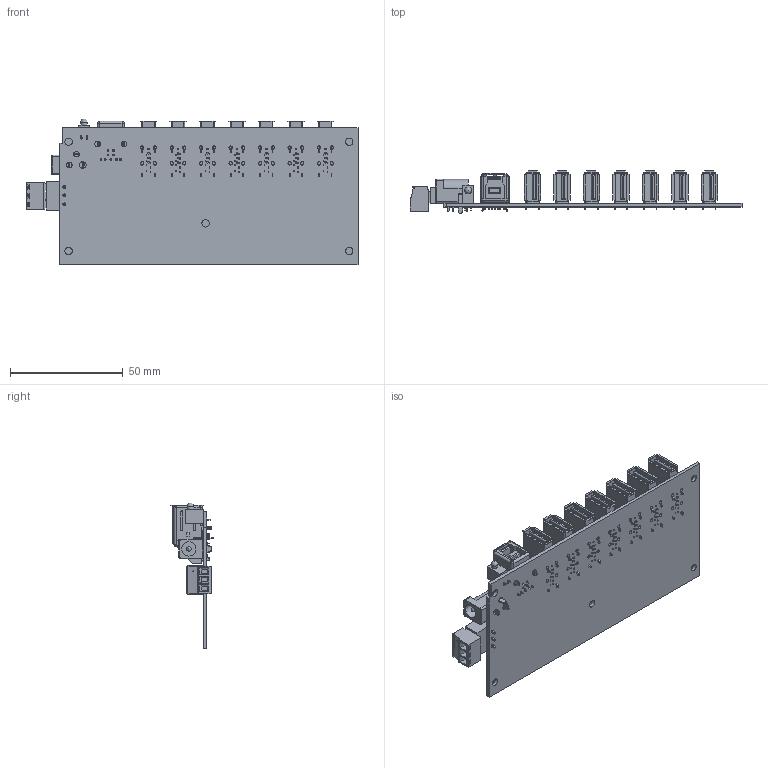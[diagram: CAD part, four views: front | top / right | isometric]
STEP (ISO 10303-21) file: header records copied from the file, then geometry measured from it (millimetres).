
FILE_DESCRIPTION(/* description */ (''),/* implementation_level */ '2;1');
FILE_NAME(/* name */ 'C:/Users/Leo Pinto/Documents/Fusion 360/AA PCBAs/GM-HU37-PCBA/GM-HU37-PCBA Model3D LPv1.step',/* time_stamp */ '2022-07-12T14:40:38-04:00',/* author */ (''),/* organization */ (''),/* preprocessor_version */ 'ST-DEVELOPER v19',/* originating_system */ 'Autodesk Translation Framework v11.7.0.108',/* authorisation */ '');
FILE_SCHEMA (('AUTOMOTIVE_DESIGN { 1 0 10303 214 3 1 1 }'));
Products named in the file (16): GM-HU37-PCBA; PCBA_ASM_12; ACCURATE_DS-210_1; LED_2; OQ3_81_1; PCB_7; USB3B_5; USB_3_A_F_2; USB_3_A_F_2_1; USB_3_A_F_2_2; USB_3_A_F_2_3; USB_3_A_F_2_4; USB_3_A_F_2_5; USB_3_A_F_2_6; Component48; Terminal 3 Connector 3.5 v2
Assembly tree (15 placements, depth 4):
  GM-HU37-PCBA
    PCBA_ASM_12
      ACCURATE_DS-210_1
      LED_2
      OQ3_81_1
      PCB_7
      USB3B_5
      USB_3_A_F_2
      USB_3_A_F_2_1
      USB_3_A_F_2_2
      USB_3_A_F_2_3
      USB_3_A_F_2_4
      USB_3_A_F_2_5
      USB_3_A_F_2_6
        Component48
    Terminal 3 Connector 3.5 v2
Bounding box: 147.51 x 19.03 x 64.85 mm (x, y, z)
Volume: 26167.6 mm3; surface area: 36894.3 mm2
Topology: 19 solids, 19 shells, 2226 faces, 5582 edges, 3613 vertices
Faces by surface type: plane 1591, cylinder 505, torus 68, bspline 34, sphere 22, cone 6
Full cylindrical faces by diameter (mm): 0.7 x28, 0.8 x11, 1.2 x3, 1.3 x3, 1.5 x28, 2 x7, 2.5 x4, 2.8 x6, 3 x2, 3.3 x5, 5.3 x5, 6.3 x1
Entity records: 71562 total; most frequent: CARTESIAN_POINT 17442, ORIENTED_EDGE 11112, DIRECTION 10823, EDGE_CURVE 5556, LINE 4293, VECTOR 4293, VERTEX_POINT 3611, AXIS2_PLACEMENT_3D 3265
